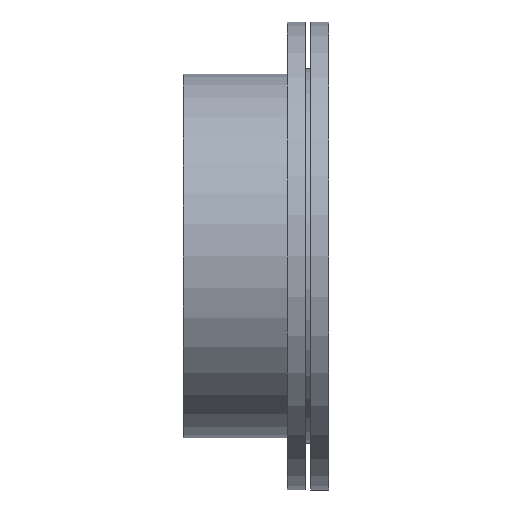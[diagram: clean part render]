
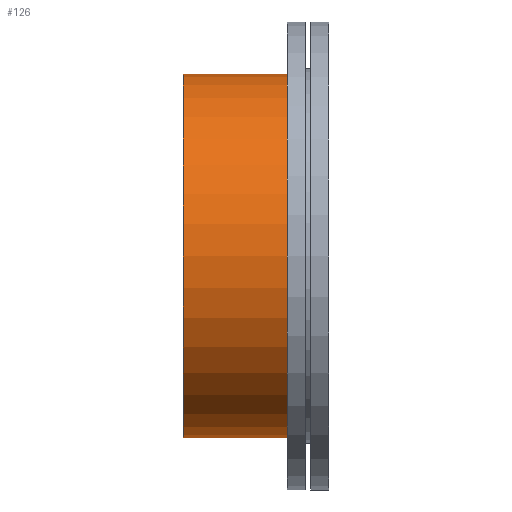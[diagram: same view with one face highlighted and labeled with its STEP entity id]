
A CAD part, front view. The second image highlights one B-rep face of the part: STEP entity #126.
In plain terms, the highlighted cylindrical face has radius 444.5 mm (diameter 889 mm), a partial arc.
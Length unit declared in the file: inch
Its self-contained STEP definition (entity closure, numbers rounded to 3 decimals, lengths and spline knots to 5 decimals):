
#126 = ADVANCED_FACE ( 'NONE', ( #1694 ), #1699, .T. ) ;
#174 = VECTOR ( 'NONE', #966, 39.37008 ) ;
#176 = LINE ( 'NONE', #989, #305 ) ;
#177 = LINE ( 'NONE', #983, #174 ) ;
#178 = CIRCLE ( 'NONE', #1058, 17.5 ) ;
#188 = CIRCLE ( 'NONE', #1056, 17.5 ) ;
#241 = DIRECTION ( 'NONE',  ( -1., 0., 0. ) ) ;
#242 = CARTESIAN_POINT ( 'NONE',  ( 5., 0., 0. ) ) ;
#243 = DIRECTION ( 'NONE',  ( 0., 0., 1. ) ) ;
#305 = VECTOR ( 'NONE', #970, 39.37008 ) ;
#446 = EDGE_CURVE ( 'NONE', #1623, #1619, #188, .T. ) ;
#448 = EDGE_CURVE ( 'NONE', #1617, #1642, #178, .T. ) ;
#449 = EDGE_CURVE ( 'NONE', #1623, #1617, #177, .T. ) ;
#451 = EDGE_CURVE ( 'NONE', #1619, #1642, #176, .T. ) ;
#487 = AXIS2_PLACEMENT_3D ( 'NONE', #242, #241, #243 ) ;
#966 = DIRECTION ( 'NONE',  ( -1., 0., 0. ) ) ;
#970 = DIRECTION ( 'NONE',  ( -1., 0., 0. ) ) ;
#977 = CARTESIAN_POINT ( 'NONE',  ( 5., 0., 0. ) ) ;
#978 = DIRECTION ( 'NONE',  ( 1., 0., 0. ) ) ;
#979 = DIRECTION ( 'NONE',  ( 0., 0., -1. ) ) ;
#983 = CARTESIAN_POINT ( 'NONE',  ( 5., 0., 17.5 ) ) ;
#984 = CARTESIAN_POINT ( 'NONE',  ( -5., 0., 0. ) ) ;
#985 = DIRECTION ( 'NONE',  ( 1., 0., 0. ) ) ;
#986 = DIRECTION ( 'NONE',  ( 0., 0., -1. ) ) ;
#989 = CARTESIAN_POINT ( 'NONE',  ( 5., 0., -17.5 ) ) ;
#1056 = AXIS2_PLACEMENT_3D ( 'NONE', #977, #978, #979 ) ;
#1058 = AXIS2_PLACEMENT_3D ( 'NONE', #984, #985, #986 ) ;
#1196 = CARTESIAN_POINT ( 'NONE',  ( -5., 0., 17.5 ) ) ;
#1197 = CARTESIAN_POINT ( 'NONE',  ( 5., 0., -17.5 ) ) ;
#1205 = CARTESIAN_POINT ( 'NONE',  ( 5., 0., 17.5 ) ) ;
#1224 = CARTESIAN_POINT ( 'NONE',  ( -5., 0., -17.5 ) ) ;
#1439 = EDGE_LOOP ( 'NONE', ( #1565, #1562, #1561, #1588 ) ) ;
#1561 = ORIENTED_EDGE ( 'NONE', *, *, #449, .T. ) ;
#1562 = ORIENTED_EDGE ( 'NONE', *, *, #446, .F. ) ;
#1565 = ORIENTED_EDGE ( 'NONE', *, *, #451, .F. ) ;
#1588 = ORIENTED_EDGE ( 'NONE', *, *, #448, .T. ) ;
#1617 = VERTEX_POINT ( 'NONE', #1196 ) ;
#1619 = VERTEX_POINT ( 'NONE', #1197 ) ;
#1623 = VERTEX_POINT ( 'NONE', #1205 ) ;
#1642 = VERTEX_POINT ( 'NONE', #1224 ) ;
#1694 = FACE_OUTER_BOUND ( 'NONE', #1439, .T. ) ;
#1699 = CYLINDRICAL_SURFACE ( 'NONE', #487, 17.5 ) ;
